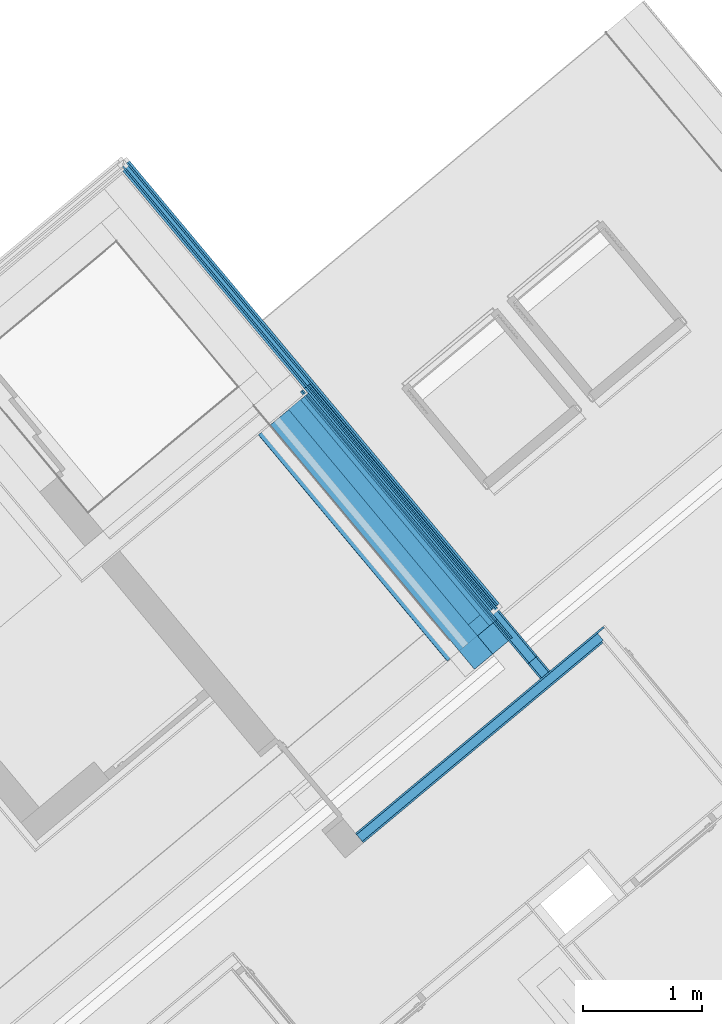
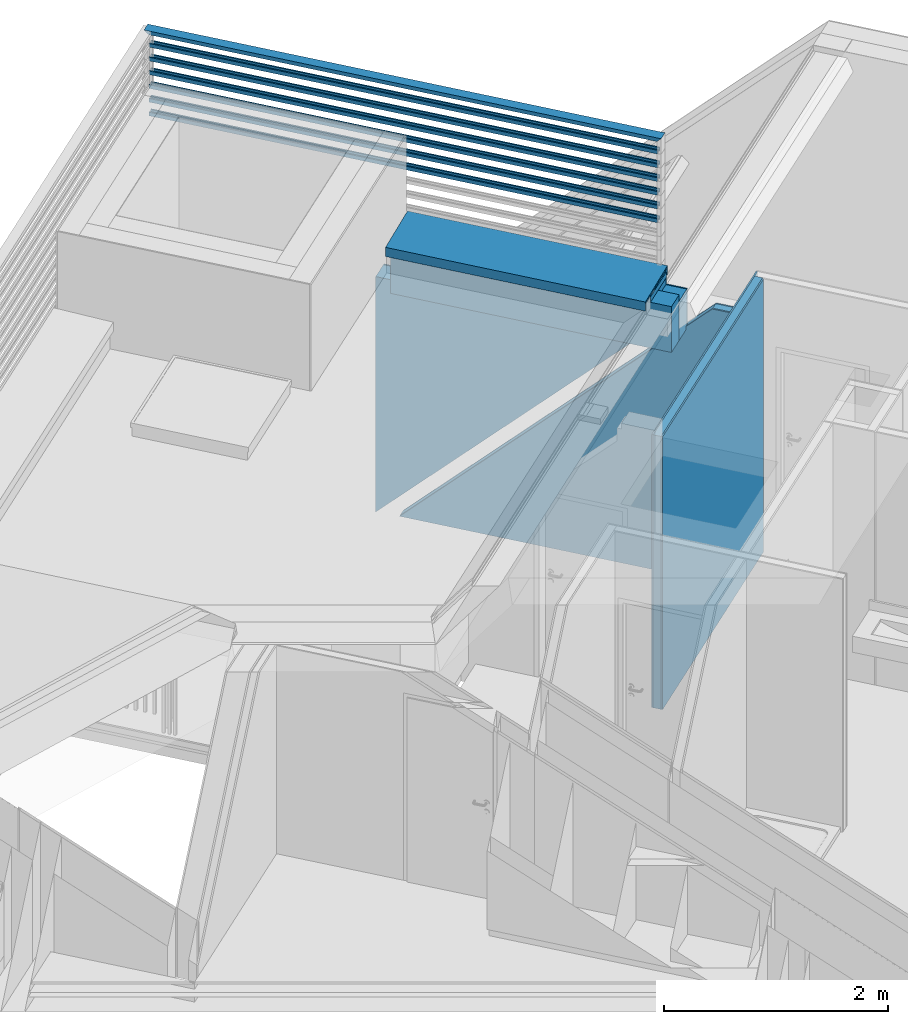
# One storey, part 31 of 50: 22 building element parts, 5 elements without a shape of their own.
"""IFC4 building model written with IfcOpenShell, lengths in metres."""

from ifc_helpers import new_model, entity, si_unit, converted_unit, derived_unit, direction, frame, origin_with_axes, place, context, subcontext, project, spatial, polygons, material, type_object, element, aggregate, save


model = new_model("IFC4")

# Units and contexts
model_context = context("Model", 3, precision=1e-05, world=origin_with_axes(), true_north=direction((0.0, 1.0)))
body_context = subcontext(model_context, "Body", "Model", "MODEL_VIEW")
ifc_project = project(units=[si_unit("LENGTHUNIT", "METRE"), si_unit("AREAUNIT", "SQUARE_METRE"), si_unit("VOLUMEUNIT", "CUBIC_METRE"), converted_unit("PLANEANGLEUNIT", "DEGREE", entity("IfcPlaneAngleMeasure", 0.0174532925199), si_unit("PLANEANGLEUNIT", "RADIAN"), dimensions=[0, 0, 0, 0, 0, 0, 0]), converted_unit("TIMEUNIT", "Year", entity("IfcTimeMeasure", 31556926.0), si_unit("TIMEUNIT", "SECOND"), dimensions=[0, 0, 1, 0, 0, 0, 0]), si_unit("MASSUNIT", "GRAM", prefix="KILO"), si_unit("THERMODYNAMICTEMPERATUREUNIT", "DEGREE_CELSIUS"), si_unit("LUMINOUSINTENSITYUNIT", "LUMEN"), si_unit("ENERGYUNIT", "JOULE", prefix="MEGA"), derived_unit("THERMALCONDUCTANCEUNIT", [(si_unit("POWERUNIT", "WATT"), 1), (si_unit("LENGTHUNIT", "METRE"), -1), (si_unit("THERMODYNAMICTEMPERATUREUNIT", "KELVIN"), -1)]), derived_unit("SPECIFICHEATCAPACITYUNIT", [(si_unit("ENERGYUNIT", "JOULE"), 1), (si_unit("MASSUNIT", "GRAM", prefix="KILO"), -1), (si_unit("THERMODYNAMICTEMPERATUREUNIT", "KELVIN"), -1)]), derived_unit("MASSDENSITYUNIT", [(si_unit("MASSUNIT", "GRAM", prefix="KILO"), 1), (si_unit("VOLUMEUNIT", "CUBIC_METRE"), -1)])], contexts=[model_context])

# Site, building, storey
site_placement = place(None, frame((-0.00153261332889, -0.00661245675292, 0.0), z_axis=(0.0, 0.0, 1.0), x_axis=(1.0, 0.0, 0.0)))
site = spatial("IfcSite", under=ifc_project, at=site_placement, Name="Gelände", CompositionType="ELEMENT")
building_placement = place(site_placement, origin_with_axes())
building = spatial("IfcBuilding", under=site, at=building_placement, Name="Gebäude", CompositionType="ELEMENT")
storey_placement = place(building_placement, frame((0.0, 0.0, 8.66), z_axis=(0.0, 0.0, 1.0), x_axis=(1.0, 0.0, 0.0)))
storey = spatial("IfcBuildingStorey", under=building, at=storey_placement, Name="DG2", CompositionType="ELEMENT", Elevation=8.66)

# Wall, building element parts
wall_type_1 = type_object("IfcWallType", Name="IW LB 01 Leichtbautrennwand einfach 10,5 cm 105", PredefinedType="NOTDEFINED")
wall_1_placement = place(storey_placement, frame((5.70401379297, 23.8415835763, 0.0), z_axis=(0.0, 0.0, 1.0), x_axis=(-0.767670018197, -0.640845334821, 0.0)))
wall_1 = element("IfcWall", 1, at=wall_1_placement, inside=storey, type_object=wall_type_1, Name="Wand-014", PredefinedType="NOTDEFINED")
ifc_material_1 = material(Name="Gipskarton")
building_element_part_1_placement = place(wall_1_placement, origin_with_axes())
building_element_part_1 = element("IfcBuildingElementPart", 2, at=building_element_part_1_placement, material=ifc_material_1, Name="Gipskarton", PredefinedType="NOTDEFINED", context=body_context, shape_type="Tessellation", body=[
    polygons([(2.72786789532, 0.09, 0.0), (0.104958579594, 0.09, 0.0), (0.104951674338, 0.105, 0.0), (2.72786744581, 0.105, 0.0), (2.72786789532, 0.09, 2.98), (0.104958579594, 0.09, 2.98), (0.104951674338, 0.105, 2.98), (2.72786744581, 0.105, 2.98)], [[[1, 2, 3, 4]], [[5, 6, 2, 1]], [[3, 2, 6, 7]], [[4, 3, 7, 8]], [[4, 8, 5, 1]], [[8, 7, 6, 5]]], closed=True),
])
ifc_material_2 = material(Name="Mineralwolle weich")
building_element_part_2_placement = place(wall_1_placement, origin_with_axes())
building_element_part_2 = element("IfcBuildingElementPart", 3, at=building_element_part_2_placement, material=ifc_material_2, Name="Mineralwolle weich", PredefinedType="NOTDEFINED", context=body_context, shape_type="Tessellation", body=[
    polygons([(2.72787014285, 0.015, 0.0), (0.0899931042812, 0.015, 0.0), (0.0899585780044, 0.09, 0.0), (2.72786789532, 0.09, 0.0), (2.72787014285, 0.015, 2.98), (0.0899931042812, 0.015, 2.98), (0.0899585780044, 0.09, 2.98), (2.72786789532, 0.09, 2.98)], [[[1, 2, 3, 4]], [[5, 6, 2, 1]], [[3, 2, 6, 7]], [[4, 3, 7, 8]], [[4, 8, 5, 1]], [[8, 7, 6, 5]]], closed=True),
])
building_element_part_3_placement = place(wall_1_placement, origin_with_axes())
building_element_part_3 = element("IfcBuildingElementPart", 4, at=building_element_part_3_placement, material=ifc_material_1, Name="Gipskarton", PredefinedType="NOTDEFINED", context=body_context, shape_type="Tessellation", body=[
    polygons([(2.72787059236, 0.0, 0.0), (0.0150000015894, 0.0, 0.0), (0.0149930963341, 0.015, 0.0), (2.72787014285, 0.015, 0.0), (2.72787059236, 0.0, 2.98), (0.0150000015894, 0.0, 2.98), (0.0149930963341, 0.015, 2.98), (2.72787014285, 0.015, 2.98)], [[[1, 2, 3, 4]], [[5, 6, 2, 1]], [[3, 2, 6, 7]], [[4, 3, 7, 8]], [[4, 8, 5, 1]], [[8, 7, 6, 5]]], closed=True),
])
aggregate(wall_1, [building_element_part_1, building_element_part_2, building_element_part_3])

wall_2_placement = place(storey_placement, frame((5.2437894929, 23.4573916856, 0.0), z_axis=(0.0, 0.0, 1.0), x_axis=(-0.641307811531, 0.767283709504, 0.0)))
wall_2 = element("IfcWall", 5, at=wall_2_placement, inside=storey, type_object=wall_type_1, Name="Wand-014", PredefinedType="NOTDEFINED")
building_element_part_4_placement = place(wall_2_placement, origin_with_axes())
building_element_part_4 = element("IfcBuildingElementPart", 6, at=building_element_part_4_placement, material=ifc_material_1, Name="Gipskarton", PredefinedType="NOTDEFINED", context=body_context, shape_type="Tessellation", body=[
    polygons([(3.14396847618, 0.09, 0.0), (0.163968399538, 0.09, 2.98), (5.42334363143e-05, 0.09, 2.98), (5.42334363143e-05, 0.09, 0.0), (0.163971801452, 0.105, 2.98), (3.14397188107, 0.105000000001, -2.97520585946e-09), (6.32723423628e-05, 0.105, 2.98), (6.32723423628e-05, 0.105, 0.0)], [[[1, 2, 3, 4]], [[5, 2, 1, 6]], [[2, 5, 7, 3]], [[4, 3, 7, 8]], [[6, 1, 4, 8]], [[5, 6, 8, 7]]], closed=True),
])
building_element_part_5_placement = place(wall_2_placement, origin_with_axes())
building_element_part_5 = element("IfcBuildingElementPart", 7, at=building_element_part_5_placement, material=ifc_material_2, Name="Mineralwolle weich", PredefinedType="NOTDEFINED", context=body_context, shape_type="Tessellation", body=[
    polygons([(3.14395146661, 0.015, 0.0), (0.163947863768, 0.0149999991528, 2.9800035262), (9.03890605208e-06, 0.015, 2.98), (9.03890605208e-06, 0.015, 0.0), (0.163968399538, 0.09, 2.98), (3.14397018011, 0.0900000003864, -1.70393192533e-06), (5.42334363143e-05, 0.09, 2.98), (5.42334363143e-05, 0.09, 0.0)], [[[1, 2, 3, 4]], [[5, 2, 1, 6]], [[2, 5, 7, 3]], [[4, 3, 7, 8]], [[6, 1, 4, 8]], [[5, 6, 8, 7]]], closed=True),
])
building_element_part_6_placement = place(wall_2_placement, origin_with_axes())
building_element_part_6 = element("IfcBuildingElementPart", 8, at=building_element_part_6_placement, material=ifc_material_1, Name="Gipskarton", PredefinedType="NOTDEFINED", context=body_context, shape_type="Tessellation", body=[
    polygons([(3.1439480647, 0.0, 0.0), (0.163947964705, 0.0, 2.98000002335), (0.0, 0.0, 2.98), (0.0, 0.0, 0.0), (0.163951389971, 0.015, 2.98), (3.14395146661, 0.015, 0.0), (9.03890605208e-06, 0.015, 2.98), (9.03890605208e-06, 0.015, 0.0)], [[[1, 2, 3, 4]], [[5, 2, 1, 6]], [[2, 5, 7, 3]], [[4, 3, 7, 8]], [[6, 1, 4, 8]], [[5, 6, 8, 7]]], closed=True),
])
aggregate(wall_2, [building_element_part_4, building_element_part_5, building_element_part_6])

# Space
space_1_placement = place(storey_placement, frame((1.54811484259, 24.5632734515, 0.22), z_axis=(0.0, 0.0, 1.0), x_axis=(0.640845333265, -0.767670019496, 0.0)))
space_1 = spatial("IfcSpace", under=storey, at=space_1_placement, CompositionType="ELEMENT", PredefinedType="NOTDEFINED")

# Wall, building element parts
wall_type_2 = type_object("IfcWallType", Name="Individuelles Profil 574 x 610", PredefinedType="NOTDEFINED")
wall_3_placement = place(space_1_placement, frame((0.124931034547, 1.8506033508, 2.47), z_axis=(0.0, 0.0, 1.0), x_axis=(0.999999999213, 3.96646163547e-05, 0.0)))
wall_3 = element("IfcWall", 9, at=wall_3_placement, inside=space_1, type_object=wall_type_2, Name="Wand-004", PredefinedType="NOTDEFINED")
ifc_material_3 = material(Name="Zementputz")
building_element_part_7_placement = place(wall_3_placement, origin_with_axes())
building_element_part_7 = element("IfcBuildingElementPart", 10, at=building_element_part_7_placement, material=ifc_material_3, Name="Zementputz", PredefinedType="NOTDEFINED", context=body_context, shape_type="Tessellation", body=[
    polygons([(2.47622600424, 0.199999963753, 0.499999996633), (2.47621948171, 0.214999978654, 0.499999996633), (0.0, 0.214999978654, 0.5), (0.0, 0.199999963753, 0.5), (2.47621948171, 0.214999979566, 0.498822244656), (2.47622600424, 0.199999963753, 0.498822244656), (2.47621948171, 0.214999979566, 0.491006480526), (2.47621948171, 0.214999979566, 0.488695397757), (2.47621948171, 0.214999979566, 0.43), (2.67621946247, 0.214999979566, 0.43), (2.67630300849, 0.214999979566, 0.43), (2.67630300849, 0.214999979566, 0.0), (0.0, 0.214999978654, 0.0), (0.0, 0.199999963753, 0.0), (2.67630300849, 0.199999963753, 0.0), (2.67630300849, 0.199999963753, 0.43), (2.67622598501, 0.199999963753, 0.43), (2.47622600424, 0.199999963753, 0.43), (2.47622600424, 0.199999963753, 0.488695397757), (2.47622600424, 0.199999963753, 0.491006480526)], [[[1, 2, 3, 4]], [[5, 2, 1, 6]], [[2, 5, 7, 8, 9, 10, 11, 12, 13, 3]], [[14, 4, 3, 13]], [[6, 1, 4, 14, 15, 16, 17, 18, 19, 20]], [[5, 6, 20, 7]], [[7, 20, 19, 8]], [[8, 19, 18, 9]], [[17, 10, 9, 18]], [[10, 17, 16, 11]], [[11, 16, 15, 12]], [[13, 12, 15, 14]]], closed=True),
])
ifc_material_4 = material(Name="Vollholz")
building_element_part_8_placement = place(wall_3_placement, origin_with_axes())
building_element_part_8 = element("IfcBuildingElementPart", 11, at=building_element_part_8_placement, material=ifc_material_4, Name="Vollholz", PredefinedType="NOTDEFINED", context=body_context, shape_type="Tessellation", body=[
    polygons([(2.47625638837, 0.130124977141, 0.584015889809), (2.47623035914, 0.189984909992, 0.586106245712), (0.0, 0.189984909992, 0.586106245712), (0.0, 0.130124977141, 0.584015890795), (2.47623035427, 0.189996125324, 0.584015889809), (2.47623033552, 0.190039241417, 0.575979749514), (2.47623033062, 0.190050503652, 0.573880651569), (2.47623031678, 0.190082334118, 0.567947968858), (2.47623029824, 0.190124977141, 0.55999999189), (0.0, 0.190124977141, 0.560000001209), (0.0, 0.130124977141, 0.560000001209), (2.47625638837, 0.130124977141, 0.575979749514), (2.47625638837, 0.130124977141, 0.55999999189), (2.47625638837, 0.130124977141, 0.567947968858), (2.47625638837, 0.130124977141, 0.573880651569)], [[[1, 2, 3, 4]], [[5, 2, 1]], [[2, 5, 6, 7, 8, 9, 10, 3]], [[4, 3, 10, 11]], [[12, 1, 4, 11, 13, 14, 15]], [[5, 1, 12, 6]], [[6, 12, 15, 7]], [[7, 15, 14, 8]], [[8, 14, 13, 9]], [[9, 13, 11, 10]]], closed=True),
])
ifc_material_5 = material(Name="EPS 1")
building_element_part_9_placement = place(wall_3_placement, origin_with_axes())
building_element_part_9 = element("IfcBuildingElementPart", 12, at=building_element_part_9_placement, material=ifc_material_5, Name="EPS 1", PredefinedType="NOTDEFINED", context=body_context, shape_type="Tessellation", body=[
    polygons([(2.47631297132, -2.16659401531e-09, 0.43), (2.47631297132, -2.16659401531e-09, 0.488695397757), (2.47631297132, -2.16659756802e-09, 0.491006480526), (2.47631297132, -2.16659401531e-09, 0.498822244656), (2.47631297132, -2.16659401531e-09, 0.499999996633), (0.0, -2.16659046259e-09, 0.5), (0.0, -2.16659046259e-09, 0.0), (2.67630300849, -2.16659401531e-09, 0.0), (2.67630300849, -2.16659401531e-09, 0.430000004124), (2.47622600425, 0.19999996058, 0.43), (2.47622600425, 0.19999996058, 0.488695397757), (2.47622600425, 0.19999996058, 0.491006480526), (2.47622600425, 0.19999996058, 0.498822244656), (2.47622600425, 0.19999996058, 0.499999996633), (0.0, 0.19999996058, 0.5), (0.0, 0.19999996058, 0.0), (2.67630300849, 0.19999996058, 0.0), (2.67630300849, 0.19999996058, 0.430000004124), (2.67630300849, 0.0228656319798, 0.430000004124), (2.67622598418, 0.19999996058, 0.43)], [[[1, 2, 3, 4, 5, 6, 7, 8, 9]], [[2, 1, 10, 11]], [[3, 2, 11, 12]], [[4, 3, 12, 13]], [[5, 4, 13, 14]], [[6, 5, 14, 15]], [[7, 6, 15, 16]], [[7, 16, 17, 8]], [[9, 8, 17, 18, 19]], [[1, 9, 19, 20, 10]], [[16, 15, 14, 13, 12, 11, 10, 20, 18, 17]], [[19, 18, 20]]], closed=True),
])
ifc_material_6 = material(Name="Brettschichtholz")
building_element_part_10_placement = place(wall_3_placement, origin_with_axes())
building_element_part_10 = element("IfcBuildingElementPart", 13, at=building_element_part_10_placement, material=ifc_material_6, Name="Brettschichtholz", PredefinedType="NOTDEFINED", context=body_context, shape_type="Tessellation", body=[
    polygons([(2.47623029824, 0.190124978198, 0.55999999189), (2.47621948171, 0.214999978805, 0.55999999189), (0.0, 0.214999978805, 0.55999999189), (0.0, 0.190124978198, 0.560000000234), (2.47621948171, 0.214999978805, 0.519224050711), (2.47625638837, 0.130124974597, 0.55999999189), (2.47635645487, -0.0999999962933, 0.55999999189), (2.476382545, -0.159999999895, 0.55999999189), (2.47639993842, -0.200000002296, 0.55999999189), (2.47639993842, -0.200000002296, 0.519224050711), (2.47621948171, 0.214999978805, 0.51136132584), (2.47621948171, 0.214999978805, 0.509050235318), (2.47621948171, 0.214999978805, 0.499999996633), (0.0, 0.214999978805, 0.499999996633), (0.0, -0.200000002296, 0.499999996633), (0.0, -0.200000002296, 0.560000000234), (0.0, -0.159999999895, 0.560000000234), (0.0, -0.0999999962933, 0.560000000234), (0.0, 0.130124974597, 0.560000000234), (2.47639993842, -0.200000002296, 0.499999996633), (2.47639993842, -0.200000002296, 0.509050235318), (2.47639993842, -0.200000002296, 0.51136132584)], [[[1, 2, 3, 4]], [[5, 2, 1, 6, 7, 8, 9, 10]], [[2, 5, 11, 12, 13, 14, 3]], [[4, 3, 14, 15, 16, 17, 18, 19]], [[6, 1, 4, 19]], [[7, 6, 19, 18]], [[8, 7, 18, 17]], [[9, 8, 17, 16]], [[10, 9, 16, 15, 20, 21, 22]], [[5, 10, 22, 11]], [[11, 22, 21, 12]], [[12, 21, 20, 13]], [[13, 20, 15, 14]]], closed=True),
])
ifc_material_7 = material(Name="Stahlbeton Wand Garage")
building_element_part_11_placement = place(wall_3_placement, origin_with_axes())
building_element_part_11 = element("IfcBuildingElementPart", 14, at=building_element_part_11_placement, material=ifc_material_7, Name="Stahlbeton Wand Garage", PredefinedType="NOTDEFINED", context=body_context, shape_type="Tessellation", body=[
    polygons([(2.67639991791, -0.2, 0.499999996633), (2.67631295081, 0.0, 0.499999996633), (0.0, 0.0, 0.5), (0.0, -0.2, 0.5), (2.67631295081, 0.0, 0.498822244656), (2.67639991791, -0.200000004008, 0.498822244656), (2.67631295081, 0.0, 0.491006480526), (2.67631295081, 0.0, 0.488695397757), (2.67631295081, 4.32326885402e-09, 0.43), (2.67630300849, 0.0, 0.0), (0.0, 0.0, 0.0), (0.0, -0.2, 0.0), (0.0, -0.200000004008, 0.235000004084), (2.67630300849, -0.200000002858, 0.234999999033), (2.67630300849, -0.200000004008, 0.430000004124), (2.67639991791, -0.200000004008, 0.43), (2.67639991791, -0.200000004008, 0.488695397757), (2.67639991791, -0.200000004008, 0.491006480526), (2.67630300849, -0.200000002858, 0.0)], [[[1, 2, 3, 4]], [[5, 2, 1, 6]], [[2, 5, 7, 8, 9, 10, 11, 3]], [[12, 13, 4, 3, 11]], [[6, 1, 4, 13, 14, 15, 16, 17, 18]], [[5, 6, 18, 7]], [[7, 18, 17, 8]], [[8, 17, 16, 9]], [[19, 10, 9, 15, 14]], [[11, 10, 19, 12]], [[12, 19, 14, 13]], [[9, 16, 15]]], closed=True),
])
ifc_material_8 = material(Name="Holzwerkstoff")
building_element_part_12_placement = place(wall_3_placement, origin_with_axes())
building_element_part_12 = element("IfcBuildingElementPart", 15, at=building_element_part_12_placement, material=ifc_material_8, Name="Holzwerkstoff", PredefinedType="NOTDEFINED", context=body_context, shape_type="Tessellation", body=[
    polygons([(2.47620892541, 0.239276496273, 0.608570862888), (2.4762086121, 0.239997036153, 0.587937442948), (2.47620861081, 0.239999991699, 0.587852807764), (0.0, 0.239999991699, 0.587852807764), (0.0, 0.239276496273, 0.608570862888), (2.47645677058, -0.330698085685, 0.587937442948), (2.47645674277, -0.330634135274, 0.586106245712), (2.47623035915, 0.189984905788, 0.586106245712), (0.0, 0.189984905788, 0.586106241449), (0.0, -0.330698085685, 0.587937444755), (0.0, 0.130124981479, 0.584015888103), (0.0, -0.0999999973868, 0.575979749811), (0.0, -0.160110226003, 0.573880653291), (0.0, -0.329999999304, 0.567947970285), (2.47645646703, -0.329999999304, 0.567947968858), (2.47645655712, -0.330207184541, 0.573880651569), (2.476456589, -0.330280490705, 0.575979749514), (2.47645671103, -0.330561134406, 0.584015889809), (2.47625638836, 0.130124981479, 0.584015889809), (2.47635645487, -0.0999999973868, 0.575979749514), (2.47638259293, -0.160110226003, 0.573880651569)], [[[1, 2, 3, 4, 5]], [[6, 2, 1]], [[2, 6, 7, 8, 3]], [[3, 8, 9, 4]], [[10, 5, 4, 9, 11, 12, 13, 14]], [[6, 1, 5, 10]], [[7, 6, 10, 14, 15, 16, 17, 18]], [[8, 7, 18, 19]], [[8, 19, 11, 9]], [[19, 20, 12, 11]], [[20, 21, 13, 12]], [[21, 15, 14, 13]], [[21, 16, 15]], [[20, 17, 16, 21]], [[19, 18, 17, 20]]], closed=True),
])
ifc_material_9 = material(Name="Stahl")
building_element_part_13_placement = place(wall_3_placement, origin_with_axes())
building_element_part_13 = element("IfcBuildingElementPart", 16, at=building_element_part_13_placement, material=ifc_material_9, Name="Stahl", PredefinedType="NOTDEFINED", context=body_context, shape_type="Tessellation", body=[
    polygons([(2.47645735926, -0.332051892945, 0.498822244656), (2.47645735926, -0.332051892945, 0.491006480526), (2.47645677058, -0.330698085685, 0.491006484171), (2.47645677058, -0.330698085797, 0.498822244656), (0.0, -0.332051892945, 0.489652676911), (2.47645735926, -0.332051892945, 0.489652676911), (2.47645735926, -0.332051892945, 0.500000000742), (2.47645735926, -0.332051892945, 0.509050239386), (2.47645735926, -0.332051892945, 0.51136132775), (2.47645735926, -0.332051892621, 0.519224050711), (2.47645735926, -0.332051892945, 0.559999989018), (2.47645735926, -0.332051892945, 0.567947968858), (2.47645735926, -0.332051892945, 0.573880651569), (2.47645735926, -0.332051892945, 0.575979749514), (2.47645735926, -0.332051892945, 0.584015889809), (2.47645735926, -0.332051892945, 0.586106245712), (2.47645735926, -0.332051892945, 0.587937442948), (2.47645735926, -0.332051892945, 0.58924311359), (0.0, -0.332051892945, 0.589243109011), (2.476456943, -0.331094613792, 0.488695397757), (2.47645593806, -0.328783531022, 0.491006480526), (0.0, -0.330698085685, 0.491006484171), (0.0, -0.330698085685, 0.587937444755), (2.47645677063, -0.330698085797, 0.587937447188), (2.47645677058, -0.330698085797, 0.586106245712), (2.47645677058, -0.330698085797, 0.584015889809), (2.47645677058, -0.330698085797, 0.575979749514), (2.47645677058, -0.330698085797, 0.573880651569), (2.47645677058, -0.330698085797, 0.567947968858), (2.47645677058, -0.330698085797, 0.559999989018), (2.47645677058, -0.330698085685, 0.519224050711), (2.47645677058, -0.330698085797, 0.51136132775), (2.47645677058, -0.330698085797, 0.509050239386), (2.47645677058, -0.330698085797, 0.500000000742), (0.0, -0.331094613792, 0.488695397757), (2.47620892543, 0.239276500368, 0.608570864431), (2.47622519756, 0.201855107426, 0.608570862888), (2.47622481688, 0.202730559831, 0.608602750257), (2.47620795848, 0.241500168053, 0.610006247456), (0.0, 0.241500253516, 0.610006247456), (0.0, 0.241500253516, 0.510007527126), (0.0, 0.240542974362, 0.509050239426), (0.0, 0.231373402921, 0.518219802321), (0.0, 0.232283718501, 0.519224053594), (0.0, 0.240146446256, 0.51136132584), (0.0, 0.240152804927, 0.608602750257), (0.0, 0.239276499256, 0.608570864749), (0.0, -0.32288233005, 0.498822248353), (0.0, -0.321878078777, 0.497911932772), (2.47645293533, -0.321878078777, 0.497911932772), (2.47645337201, -0.32288233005, 0.498822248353), (2.47620854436, 0.240152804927, 0.608602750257), (2.47620795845, 0.241500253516, 0.608602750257), (2.47620795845, 0.241500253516, 0.608570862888), (2.47620795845, 0.241500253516, 0.587937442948), (2.47620795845, 0.241500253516, 0.586106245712), (2.47620795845, 0.241500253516, 0.584015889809), (2.47620795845, 0.241500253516, 0.575979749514), (2.47620795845, 0.241500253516, 0.573880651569), (2.47620795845, 0.241500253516, 0.567947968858), (2.47620795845, 0.241500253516, 0.55999999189), (2.47620795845, 0.241500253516, 0.519224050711), (2.47620795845, 0.241500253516, 0.51136132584), (2.47620795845, 0.241500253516, 0.510007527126), (2.4762083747, 0.240542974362, 0.509050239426), (2.47620937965, 0.238231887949, 0.51136132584), (2.47621236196, 0.231373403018, 0.518219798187), (2.47621196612, 0.232283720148, 0.519224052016), (2.47620854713, 0.240146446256, 0.51136132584), (2.47620854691, 0.240146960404, 0.519224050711), (2.47620854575, 0.240149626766, 0.55999999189), (2.47620854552, 0.240150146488, 0.567947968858), (2.47620854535, 0.24015053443, 0.573880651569), (2.47620854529, 0.240150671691, 0.575979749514), (2.47620854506, 0.240151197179, 0.584015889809), (2.476208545, 0.240151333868, 0.586106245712), (2.47620854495, 0.240151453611, 0.587937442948), (2.47620854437, 0.240152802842, 0.608570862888)], [[[1, 2, 3, 4]], [[5, 6, 2, 1, 7, 8, 9, 10, 11, 12, 13, 14, 15, 16, 17, 18, 19]], [[2, 6, 20, 21, 3]], [[3, 22, 23, 24, 25, 26, 27, 28, 29, 30, 31, 32, 33, 34, 4]], [[1, 4, 34, 7]], [[6, 5, 35, 20]], [[7, 34, 33, 8]], [[9, 8, 33, 32]], [[10, 9, 32, 31]], [[11, 10, 31, 30]], [[12, 11, 30, 29]], [[13, 12, 29, 28]], [[14, 13, 28, 27]], [[14, 27, 26, 15]], [[16, 15, 26, 25]], [[17, 16, 25, 24]], [[18, 17, 24, 36, 37]], [[19, 18, 37, 38, 39, 40]], [[35, 5, 19, 40, 41, 42, 43, 44, 45, 46, 47, 23, 22, 48, 49]], [[20, 35, 49, 50, 21]], [[3, 21, 50, 51]], [[22, 3, 51, 48]], [[24, 23, 47, 36]], [[38, 37, 36, 52]], [[38, 52, 53, 39]], [[41, 40, 39, 53, 54, 55, 56, 57, 58, 59, 60, 61, 62, 63, 64]], [[42, 41, 64, 65]], [[43, 42, 65, 66, 67]], [[44, 43, 67, 68]], [[45, 44, 68, 69]], [[46, 45, 69, 70, 71, 72, 73, 74, 75, 76, 77, 78, 52]], [[47, 46, 52, 36]], [[49, 48, 51, 50]], [[52, 78, 54, 53]], [[78, 77, 55, 54]], [[77, 76, 56, 55]], [[75, 57, 56, 76]], [[74, 58, 57, 75]], [[74, 73, 59, 58]], [[73, 72, 60, 59]], [[72, 71, 61, 60]], [[71, 70, 62, 61]], [[70, 69, 63, 62]], [[69, 66, 65, 64, 63]], [[68, 67, 66, 69]]], closed=True),
])
aggregate(wall_3, [building_element_part_7, building_element_part_8, building_element_part_9, building_element_part_10, building_element_part_11, building_element_part_12, building_element_part_13])

wall_type_3 = type_object("IfcWallType", Name="AW EG 420", PredefinedType="NOTDEFINED")
wall_4_placement = place(space_1_placement, frame((-0.0900427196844, 2.06559482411, -0.22), z_axis=(0.0, 0.0, 1.0), x_axis=(0.999999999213, 3.96646163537e-05, 0.0)))
wall_4 = element("IfcWall", 17, at=wall_4_placement, inside=space_1, type_object=wall_type_3, Name="Wand-002", PredefinedType="NOTDEFINED")
building_element_part_14_placement = place(wall_4_placement, origin_with_axes())
building_element_part_14 = element("IfcBuildingElementPart", 18, at=building_element_part_14_placement, material=ifc_material_3, Name="Zementputz", PredefinedType="NOTDEFINED", context=body_context, shape_type="Tessellation", body=[
    polygons([(3.26245261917e-06, -0.0150000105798, 2.69), (3.26245261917e-06, -0.0150000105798, 0.119414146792), (2.57058840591, -0.015, 2.69), (0.0, 3.87430176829e-09, 2.69), (0.0, 3.87430176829e-09, 0.119416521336), (2.57058840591, 0.0, 2.69)], [[[1, 2, 3]], [[2, 1, 4, 5]], [[2, 5, 6, 3]], [[4, 1, 3, 6]], [[4, 6, 5]]], closed=True),
])
building_element_part_15_placement = place(wall_4_placement, origin_with_axes())
building_element_part_15 = element("IfcBuildingElementPart", 19, at=building_element_part_15_placement, material=ifc_material_5, Name="EPS 1", PredefinedType="NOTDEFINED", context=body_context, shape_type="Tessellation", body=[
    polygons([(4.67617913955e-05, -0.215000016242, 0.119382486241), (4.67617913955e-05, -0.215000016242, 2.69), (3.26245261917e-06, -0.0150000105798, 2.69), (3.26245261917e-06, -0.0150000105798, 0.119414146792), (2.57058840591, -0.215, 2.68992394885), (2.57058840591, -0.215, 2.69), (2.57058840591, -0.015, 2.69)], [[[1, 2, 3, 4]], [[2, 1, 5, 6]], [[2, 6, 7, 3]], [[3, 7, 4]], [[1, 4, 7, 5]], [[6, 5, 7]]], closed=True),
])
aggregate(wall_4, [building_element_part_14, building_element_part_15])

# Space
space_2_placement = place(storey_placement, frame((6.83696947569, 22.4856827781, 0.22), z_axis=(0.0, 0.0, 1.0), x_axis=(0.767365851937, 0.641209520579, 0.0)))
space_2 = spatial("IfcSpace", under=storey, at=space_2_placement, CompositionType="ELEMENT", PredefinedType="NOTDEFINED")

# Curtain wall, building element parts
curtain_wall_type = type_object("IfcCurtainWallType", Name="Fassadentyp", PredefinedType="NOTDEFINED")
curtain_wall_placement = place(space_2_placement, frame((-0.611260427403, 4.89750550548, 0.1), z_axis=(0.0, 0.0, 1.0), x_axis=(0.767365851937, -0.641209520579, 0.0)))
curtain_wall = element("IfcCurtainWall", 20, at=curtain_wall_placement, inside=space_2, type_object=curtain_wall_type, Name="Fassade-001", PredefinedType="NOTDEFINED")
ifc_material_10 = material(Name="Blech")
building_element_part_16_placement = place(curtain_wall_placement, origin_with_axes())
building_element_part_16 = element("IfcBuildingElementPart", 21, at=building_element_part_16_placement, material=ifc_material_10, Name="Blech", PredefinedType="NOTDEFINED", context=body_context, shape_type="Tessellation", body=[
    polygons([(-1.56506390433, 1.85045496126, 3.45), (-1.56506390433, 1.85045496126, 3.47), (1.54203854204, -1.86968599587, 3.47), (1.54203854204, -1.86968599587, 3.45), (1.54203854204, -1.86968599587, 3.43), (-1.56506390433, 1.85045496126, 3.43), (-1.57657658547, 1.84083944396, 3.43), (-1.57657658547, 1.84083944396, 3.47), (1.5305258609, -1.87930151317, 3.47), (1.5305258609, -1.87930151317, 3.43)], [[[1, 2, 3, 4, 5, 6]], [[6, 7, 8, 2, 1]], [[3, 2, 8, 9]], [[4, 3, 9, 10, 5]], [[5, 10, 7, 6]], [[10, 9, 8, 7]]], closed=True),
    polygons([(1.56506390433, -1.85045496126, 3.43), (1.57657658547, -1.84083944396, 3.43), (1.57657658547, -1.84083944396, 3.47), (1.56506390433, -1.85045496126, 3.47), (1.56506390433, -1.85045496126, 3.45), (-1.54203854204, 1.86968599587, 3.43), (-1.5305258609, 1.87930151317, 3.43), (-1.5305258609, 1.87930151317, 3.47), (-1.54203854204, 1.86968599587, 3.47), (-1.54203854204, 1.86968599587, 3.45)], [[[1, 2, 3, 4, 5]], [[6, 7, 2, 1]], [[3, 2, 7, 8]], [[9, 4, 3, 8]], [[5, 4, 9, 10, 6, 1]], [[10, 9, 8, 7, 6]]], closed=True),
])
building_element_part_17_placement = place(curtain_wall_placement, origin_with_axes())
building_element_part_17 = element("IfcBuildingElementPart", 22, at=building_element_part_17_placement, material=ifc_material_10, Name="Blech", PredefinedType="NOTDEFINED", context=body_context, shape_type="Tessellation", body=[
    polygons([(-1.56506390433, 1.85045496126, 3.6), (-1.56506390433, 1.85045496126, 3.62), (1.54203854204, -1.86968599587, 3.62), (1.54203854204, -1.86968599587, 3.6), (1.54203854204, -1.86968599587, 3.58), (-1.56506390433, 1.85045496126, 3.58), (-1.57657658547, 1.84083944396, 3.58), (-1.57657658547, 1.84083944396, 3.62), (1.5305258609, -1.87930151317, 3.62), (1.5305258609, -1.87930151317, 3.58)], [[[1, 2, 3, 4, 5, 6]], [[6, 7, 8, 2, 1]], [[3, 2, 8, 9]], [[4, 3, 9, 10, 5]], [[5, 10, 7, 6]], [[10, 9, 8, 7]]], closed=True),
    polygons([(1.56506390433, -1.85045496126, 3.58), (1.57657658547, -1.84083944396, 3.58), (1.57657658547, -1.84083944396, 3.62), (1.56506390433, -1.85045496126, 3.62), (1.56506390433, -1.85045496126, 3.6), (-1.54203854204, 1.86968599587, 3.58), (-1.5305258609, 1.87930151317, 3.58), (-1.5305258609, 1.87930151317, 3.62), (-1.54203854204, 1.86968599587, 3.62), (-1.54203854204, 1.86968599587, 3.6)], [[[1, 2, 3, 4, 5]], [[6, 7, 2, 1]], [[3, 2, 7, 8]], [[9, 4, 3, 8]], [[5, 4, 9, 10, 6, 1]], [[10, 9, 8, 7, 6]]], closed=True),
])
building_element_part_18_placement = place(curtain_wall_placement, origin_with_axes())
building_element_part_18 = element("IfcBuildingElementPart", 23, at=building_element_part_18_placement, material=ifc_material_10, Name="Blech", PredefinedType="NOTDEFINED", context=body_context, shape_type="Tessellation", body=[
    polygons([(-1.56506390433, 1.85045496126, 3.75), (-1.56506390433, 1.85045496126, 3.77), (1.54203854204, -1.86968599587, 3.77), (1.54203854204, -1.86968599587, 3.75), (1.54203854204, -1.86968599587, 3.73), (-1.56506390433, 1.85045496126, 3.73), (-1.57657658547, 1.84083944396, 3.73), (-1.57657658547, 1.84083944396, 3.77), (1.5305258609, -1.87930151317, 3.77), (1.5305258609, -1.87930151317, 3.73)], [[[1, 2, 3, 4, 5, 6]], [[6, 7, 8, 2, 1]], [[3, 2, 8, 9]], [[4, 3, 9, 10, 5]], [[5, 10, 7, 6]], [[10, 9, 8, 7]]], closed=True),
    polygons([(1.56506390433, -1.85045496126, 3.73), (1.57657658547, -1.84083944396, 3.73), (1.57657658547, -1.84083944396, 3.77), (1.56506390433, -1.85045496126, 3.77), (1.56506390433, -1.85045496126, 3.75), (-1.54203854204, 1.86968599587, 3.73), (-1.5305258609, 1.87930151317, 3.73), (-1.5305258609, 1.87930151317, 3.77), (-1.54203854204, 1.86968599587, 3.77), (-1.54203854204, 1.86968599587, 3.75)], [[[1, 2, 3, 4, 5]], [[6, 7, 2, 1]], [[3, 2, 7, 8]], [[9, 4, 3, 8]], [[5, 4, 9, 10, 6, 1]], [[10, 9, 8, 7, 6]]], closed=True),
])
building_element_part_19_placement = place(curtain_wall_placement, origin_with_axes())
building_element_part_19 = element("IfcBuildingElementPart", 24, at=building_element_part_19_placement, material=ifc_material_10, Name="Blech", PredefinedType="NOTDEFINED", context=body_context, shape_type="Tessellation", body=[
    polygons([(-1.56506390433, 1.85045496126, 3.9), (-1.56506390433, 1.85045496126, 3.92), (1.54203854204, -1.86968599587, 3.92), (1.54203854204, -1.86968599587, 3.9), (1.54203854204, -1.86968599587, 3.88), (-1.56506390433, 1.85045496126, 3.88), (-1.57657658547, 1.84083944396, 3.88), (-1.57657658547, 1.84083944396, 3.92), (1.5305258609, -1.87930151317, 3.92), (1.5305258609, -1.87930151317, 3.88)], [[[1, 2, 3, 4, 5, 6]], [[6, 7, 8, 2, 1]], [[3, 2, 8, 9]], [[4, 3, 9, 10, 5]], [[5, 10, 7, 6]], [[10, 9, 8, 7]]], closed=True),
    polygons([(1.56506390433, -1.85045496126, 3.88), (1.57657658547, -1.84083944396, 3.88), (1.57657658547, -1.84083944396, 3.92), (1.56506390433, -1.85045496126, 3.92), (1.56506390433, -1.85045496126, 3.9), (-1.54203854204, 1.86968599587, 3.88), (-1.5305258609, 1.87930151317, 3.88), (-1.5305258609, 1.87930151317, 3.92), (-1.54203854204, 1.86968599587, 3.92), (-1.54203854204, 1.86968599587, 3.9)], [[[1, 2, 3, 4, 5]], [[6, 7, 2, 1]], [[3, 2, 7, 8]], [[9, 4, 3, 8]], [[5, 4, 9, 10, 6, 1]], [[10, 9, 8, 7, 6]]], closed=True),
])
building_element_part_20_placement = place(curtain_wall_placement, origin_with_axes())
building_element_part_20 = element("IfcBuildingElementPart", 25, at=building_element_part_20_placement, material=ifc_material_10, Name="Blech", PredefinedType="NOTDEFINED", context=body_context, shape_type="Tessellation", body=[
    polygons([(-1.56506390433, 1.85045496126, 4.05), (-1.56506390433, 1.85045496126, 4.07), (1.54203854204, -1.86968599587, 4.07), (1.54203854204, -1.86968599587, 4.05), (1.54203854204, -1.86968599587, 4.03), (-1.56506390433, 1.85045496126, 4.03), (-1.57657658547, 1.84083944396, 4.03), (-1.57657658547, 1.84083944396, 4.07), (1.5305258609, -1.87930151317, 4.07), (1.5305258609, -1.87930151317, 4.03)], [[[1, 2, 3, 4, 5, 6]], [[6, 7, 8, 2, 1]], [[3, 2, 8, 9]], [[4, 3, 9, 10, 5]], [[5, 10, 7, 6]], [[10, 9, 8, 7]]], closed=True),
    polygons([(1.56506390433, -1.85045496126, 4.03), (1.57657658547, -1.84083944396, 4.03), (1.57657658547, -1.84083944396, 4.07), (1.56506390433, -1.85045496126, 4.07), (1.56506390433, -1.85045496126, 4.05), (-1.54203854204, 1.86968599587, 4.03), (-1.5305258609, 1.87930151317, 4.03), (-1.5305258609, 1.87930151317, 4.07), (-1.54203854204, 1.86968599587, 4.07), (-1.54203854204, 1.86968599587, 4.05)], [[[1, 2, 3, 4, 5]], [[6, 7, 2, 1]], [[3, 2, 7, 8]], [[9, 4, 3, 8]], [[5, 4, 9, 10, 6, 1]], [[10, 9, 8, 7, 6]]], closed=True),
])
building_element_part_21_placement = place(curtain_wall_placement, origin_with_axes())
building_element_part_21 = element("IfcBuildingElementPart", 26, at=building_element_part_21_placement, material=ifc_material_10, Name="Blech", PredefinedType="NOTDEFINED", context=body_context, shape_type="Tessellation", body=[
    polygons([(-1.56506390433, 1.85045496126, 4.2), (-1.56506390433, 1.85045496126, 4.22), (1.54203854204, -1.86968599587, 4.22), (1.54203854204, -1.86968599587, 4.2), (1.54203854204, -1.86968599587, 4.18), (-1.56506390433, 1.85045496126, 4.18), (-1.57657658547, 1.84083944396, 4.18), (-1.57657658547, 1.84083944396, 4.22), (1.5305258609, -1.87930151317, 4.22), (1.5305258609, -1.87930151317, 4.18)], [[[1, 2, 3, 4, 5, 6]], [[6, 7, 8, 2, 1]], [[3, 2, 8, 9]], [[4, 3, 9, 10, 5]], [[5, 10, 7, 6]], [[10, 9, 8, 7]]], closed=True),
    polygons([(1.56506390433, -1.85045496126, 4.18), (1.57657658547, -1.84083944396, 4.18), (1.57657658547, -1.84083944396, 4.22), (1.56506390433, -1.85045496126, 4.22), (1.56506390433, -1.85045496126, 4.2), (-1.54203854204, 1.86968599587, 4.18), (-1.5305258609, 1.87930151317, 4.18), (-1.5305258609, 1.87930151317, 4.22), (-1.54203854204, 1.86968599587, 4.22), (-1.54203854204, 1.86968599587, 4.2)], [[[1, 2, 3, 4, 5]], [[6, 7, 2, 1]], [[3, 2, 7, 8]], [[9, 4, 3, 8]], [[5, 4, 9, 10, 6, 1]], [[10, 9, 8, 7, 6]]], closed=True),
])
building_element_part_22_placement = place(curtain_wall_placement, origin_with_axes())
building_element_part_22 = element("IfcBuildingElementPart", 27, at=building_element_part_22_placement, material=ifc_material_10, Name="Blech", PredefinedType="NOTDEFINED", context=body_context, shape_type="Tessellation", body=[
    polygons([(1.55485923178, -1.88503623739, 4.35000006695), (1.57788459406, -1.86580520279, 4.35000006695), (1.56506390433, -1.85045496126, 4.33000006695), (1.59192682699, -1.82801875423, 4.33000006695), (1.61756820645, -1.85871923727, 4.37000006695), (1.54081699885, -1.92282268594, 4.37000006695), (1.51517561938, -1.8921222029, 4.33000006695), (1.54203854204, -1.86968599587, 4.33000006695), (-1.57788459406, 1.86580520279, 4.35000006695), (-1.55485923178, 1.88503623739, 4.35000006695), (-1.54203854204, 1.86968599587, 4.33000006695), (-1.51517561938, 1.8921222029, 4.33000006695), (-1.54081699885, 1.92282268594, 4.37000006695), (-1.61756820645, 1.85871923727, 4.37000006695), (-1.59192682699, 1.82801875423, 4.33000006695), (-1.56506390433, 1.85045496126, 4.33000006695)], [[[1, 2, 3, 4, 5, 6, 7, 8]], [[2, 1, 9, 10]], [[11, 3, 2, 10]], [[3, 11, 12, 4]], [[5, 4, 12, 13]], [[6, 5, 13, 14]], [[7, 6, 14, 15]], [[16, 8, 7, 15]], [[1, 8, 16, 9]], [[9, 16, 15, 14, 13, 12, 11, 10]]], closed=True),
])
aggregate(curtain_wall, [building_element_part_16, building_element_part_17, building_element_part_18, building_element_part_19, building_element_part_20, building_element_part_21, building_element_part_22])

save(model, "model.ifc")
